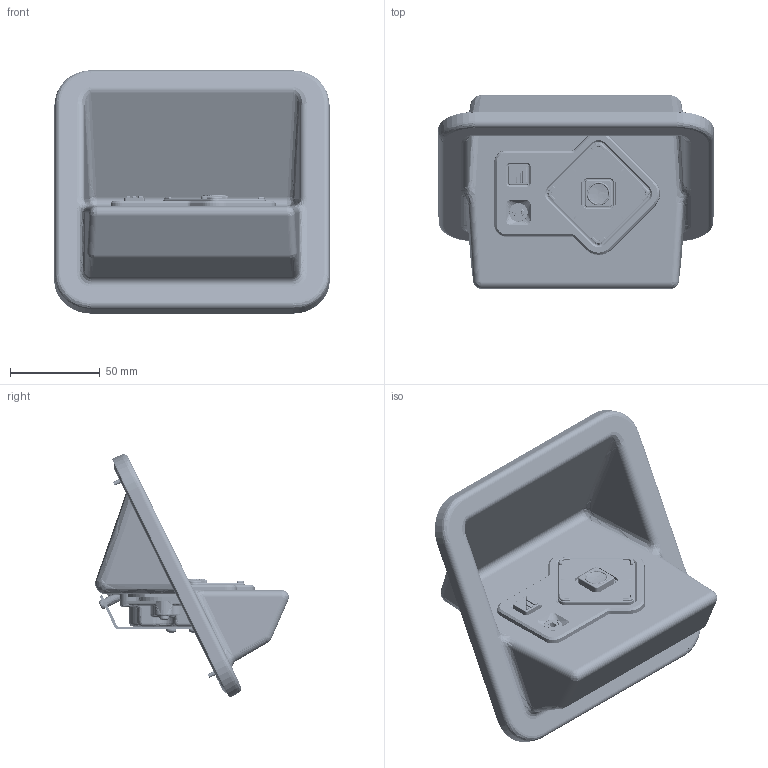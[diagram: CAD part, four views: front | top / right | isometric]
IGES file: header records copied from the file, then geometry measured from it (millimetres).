
Start section: SolidWorks IGES file using NURBS representation for surfaces
Global section: file name: C:\Users\anthonyc\OneDrive - Keymat Technology Ltd. (T A Storm Interface)\Desktop\1406-35011-MPH\1406-35011-MPH.IGS; native system: SolidWorks 2024; preprocessor: SolidWorks 2024; author: AnthonyC; date: 240717.111902; units: millimetre
Bounding box: 153.13 x 107.56 x 135.17 mm (x, y, z)
Surface area: 170190.6 mm2 (no closed solid volume)
Topology: 0 solids, 0 shells, 4623 faces, 46023 edges, 45777 vertices
Faces by surface type: bspline 4623
